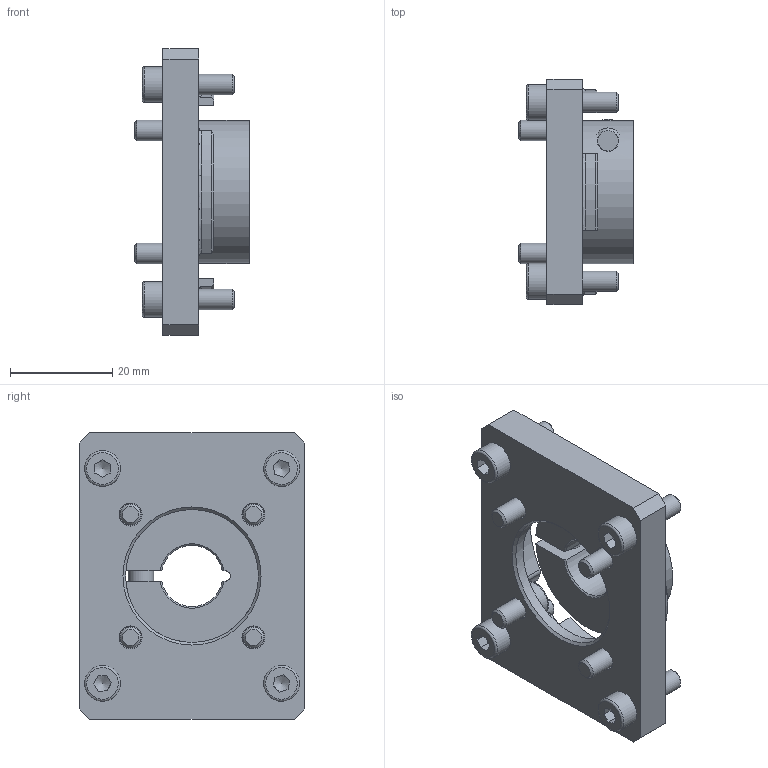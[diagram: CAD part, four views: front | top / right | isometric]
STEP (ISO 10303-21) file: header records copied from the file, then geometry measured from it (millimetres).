
FILE_DESCRIPTION(/* description */ ('Flange kit PE2 / PLE40'),/* implementation_level */ '2;1');
FILE_NAME(/* name */ 'D:\InventorWorkspace2019\CAD\0232.037.stp',/* time_stamp */ '2020-04-09T14:51:31+02:00',/* author */ ('AR64535'),/* organization */ (''),/* preprocessor_version */ 'ST-DEVELOPER v17.2',/* originating_system */ 'Autodesk Inventor 2019',/* authorisation */ '');
FILE_SCHEMA (('AUTOMOTIVE_DESIGN { 1 0 10303 214 3 1 1 }'));
Length unit declared in the file: millimetre
Products named in the file (6): 0232.037; 0231.013-01; 0231.012-01; 135-721014; 130-302319; --
Assembly tree (11 placements, depth 2):
  0232.037
    0231.013-01
    0231.012-01
    135-721014  x4
    130-302319
    --  x4
Bounding box: 22.4 x 44 x 56 mm (x, y, z)
Volume: 17332.9 mm3; surface area: 12172.4 mm2
Topology: 11 solids, 11 shells, 210 faces, 585 edges, 408 vertices
Faces by surface type: plane 107, cylinder 54, cone 27, torus 22
Full cylindrical faces by diameter (mm): 4 x8, 4.134 x1, 4.5 x8, 5 x1, 5.3 x1, 7 x8, 8.5 x1, 26 x1
Entity records: 4415 total; most frequent: CARTESIAN_POINT 939, DIRECTION 715, ORIENTED_EDGE 672, EDGE_CURVE 336, AXIS2_PLACEMENT_3D 289, VERTEX_POINT 234, CIRCLE 152, EDGE_LOOP 150
